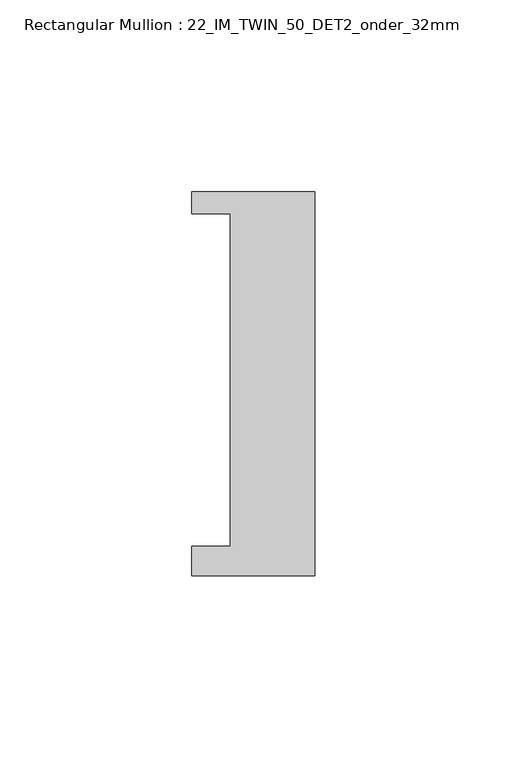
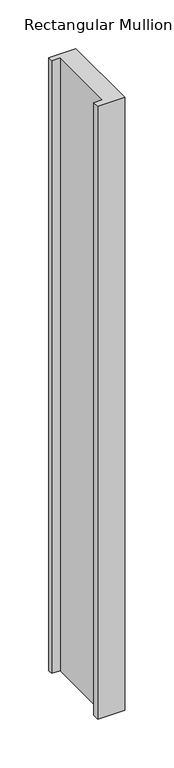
"""IFC4 building model written with IfcOpenShell, lengths in millimetres: member geometry, Rectangular Mullion : 22_IM_TWIN_50_DET2_onder_32mm."""

import ifcopenshell
import ifcopenshell.guid

model = None  # the IFC model being written
_history = None  # IfcOwnerHistory: only IFC2X3 demands one
_inside = {}  # id of a spatial element -> (the spatial element, [elements in it])
_under = {}  # id of a project, library or spatial element -> (it, [spatial elements below it])
_declared = {}  # id of a project -> (the project, [libraries it declares])
_typed = {}  # id of a type object -> (the type object, [elements of that type])
_made_of = {}  # id of a material, layer set ... -> (it, [elements and type objects made of it])


def new_model(schema):
    """Start an empty IFC model of exactly this schema.

    Asked for "IFC4X3", IfcOpenShell would pick the latest addendum, in which some entities
    have other attributes; the version numbers below select the first issue.
    IFC2X3 requires an IfcOwnerHistory on every rooted entity: one is made here for all.
    """
    global model, _history
    if schema == "IFC4X3":
        model = ifcopenshell.file(schema_version=(4, 3, 0, 0))
    else:
        model = ifcopenshell.file(schema=schema)
    _inside.clear()
    _under.clear()
    _declared.clear()
    _typed.clear()
    _made_of.clear()
    _history = None
    if model.schema == "IFC2X3":
        org = make("IfcOrganization", Name="unknown")
        user = make(
            "IfcPersonAndOrganization",
            ThePerson=make("IfcPerson", FamilyName="unknown"),
            TheOrganization=org,
        )
        app = make(
            "IfcApplication",
            ApplicationDeveloper=org,
            Version="unknown",
            ApplicationFullName="unknown",
            ApplicationIdentifier="unknown",
        )
        _history = make(
            "IfcOwnerHistory",
            OwningUser=user,
            OwningApplication=app,
            ChangeAction="ADDED",
            CreationDate=0,
        )
    return model


def make(cls, **values):
    """One entity of the class cls with the attributes given. An attribute that is None is left unset."""
    return model.create_entity(
        cls, **{name: value for name, value in values.items() if value is not None}
    )


def rooted(cls, **values):
    """An entity with a GlobalId (a new one), such as an element, a storey or a relation."""
    return make(cls, GlobalId=ifcopenshell.guid.new(), OwnerHistory=_history, **values)


def si_unit(unit_type, name, prefix=None):
    """IfcSIUnit, for example si_unit("LENGTHUNIT", "METRE", prefix="MILLI")."""
    return make("IfcSIUnit", UnitType=unit_type, Prefix=prefix, Name=name)


def assignment(units):
    """IfcUnitAssignment: the units of a project."""
    return None if units is None else make("IfcUnitAssignment", Units=units)


def point(xyz):
    """IfcCartesianPoint."""
    return None if xyz is None else make("IfcCartesianPoint", Coordinates=xyz)


def direction(xyz):
    """IfcDirection."""
    return None if xyz is None else make("IfcDirection", DirectionRatios=xyz)


def frame(location, z_axis=None, x_axis=None):
    """IfcAxis2Placement3D, a coordinate frame: its origin and axes. An axis left out is left unset."""
    return make(
        "IfcAxis2Placement3D",
        Location=point(location),
        Axis=direction(z_axis),
        RefDirection=direction(x_axis),
    )


def origin():
    """The frame at (0, 0, 0) with its axes left unset."""
    return frame((0.0, 0.0, 0.0))


def place(relative_to, where):
    """IfcLocalPlacement: puts the frame where relative to a parent placement (None: the world)."""
    return make(
        "IfcLocalPlacement", PlacementRelTo=relative_to, RelativePlacement=where
    )


def context(
    kind, dimensions, precision=None, world=None, true_north=None, identifier=None
):
    """IfcGeometricRepresentationContext, for example the 3D "Model" context."""
    return make(
        "IfcGeometricRepresentationContext",
        ContextIdentifier=identifier,
        ContextType=kind,
        CoordinateSpaceDimension=dimensions,
        Precision=precision,
        WorldCoordinateSystem=world,
        TrueNorth=true_north,
    )


def project(units=None, contexts=None):
    """IfcProject with its units and contexts."""
    return rooted(
        "IfcProject",
        Name="project",
        RepresentationContexts=contexts,
        UnitsInContext=assignment(units),
    )


def spatial(cls, under=None, at=None, **own):
    """A site, building, storey or space (cls), placed at a placement, below another one or the project."""
    s = rooted(cls, ObjectPlacement=at, **own)
    if under is not None:
        _under.setdefault(under.id(), (under, []))[1].append(s)
    return s


def polyline(points):
    """IfcPolyline through the points."""
    return make("IfcPolyline", Points=[point(p) for p in points])


def outline(outer, holes=None, kind="AREA"):
    """IfcArbitraryClosedProfileDef: a profile drawn as a closed curve; with holes, ...WithVoids."""
    if holes is None:
        return make("IfcArbitraryClosedProfileDef", ProfileType=kind, OuterCurve=outer)
    return make(
        "IfcArbitraryProfileDefWithVoids",
        ProfileType=kind,
        OuterCurve=outer,
        InnerCurves=holes,
    )


def extrude(swept, where, along, depth):
    """IfcExtrudedAreaSolid: the profile swept, set in the frame where, extruded along a direction by depth."""
    return make(
        "IfcExtrudedAreaSolid",
        SweptArea=swept,
        Position=where,
        ExtrudedDirection=direction(along),
        Depth=depth,
    )


def shape(context_of_items, identifier, shape_type, items):
    """IfcShapeRepresentation: the items that make up one representation, for example the "Body"."""
    return make(
        "IfcShapeRepresentation",
        ContextOfItems=context_of_items,
        RepresentationIdentifier=identifier,
        RepresentationType=shape_type,
        Items=items,
    )


def source(mapping_origin, context_of_items, identifier, shape_type, items):
    """IfcRepresentationMap: a shape defined once, which mapped items show again and again."""
    return make(
        "IfcRepresentationMap",
        MappingOrigin=mapping_origin,
        MappedRepresentation=shape(context_of_items, identifier, shape_type, items),
    )


def transform(
    local_origin,
    x_axis=None,
    y_axis=None,
    z_axis=None,
    scale=None,
    scale2=None,
    scale3=None,
    uniform=True,
):
    """IfcCartesianTransformationOperator3D, or its non-uniform kind. x_axis, y_axis, z_axis: its Axis1, 2, 3."""
    if uniform:
        return make(
            "IfcCartesianTransformationOperator3D",
            Axis1=direction(x_axis),
            Axis2=direction(y_axis),
            LocalOrigin=point(local_origin),
            Scale=scale,
            Axis3=direction(z_axis),
        )
    return make(
        "IfcCartesianTransformationOperator3DnonUniform",
        Axis1=direction(x_axis),
        Axis2=direction(y_axis),
        LocalOrigin=point(local_origin),
        Scale=scale,
        Axis3=direction(z_axis),
        Scale2=scale2,
        Scale3=scale3,
    )


def mapped(mapping_source, mapping_target):
    """IfcMappedItem: shows the shape of a source again, moved by a transform."""
    return make(
        "IfcMappedItem", MappingSource=mapping_source, MappingTarget=mapping_target
    )


def made_of(thing, what):
    """Note that an element or type object is made of a material, layer set ...; save() writes the relation."""
    if what is not None:
        _made_of.setdefault(what.id(), (what, []))[1].append(thing)
    return thing


def element(
    cls,
    number,
    at=None,
    inside=None,
    cuts=None,
    type_object=None,
    material=None,
    context=None,
    identifier="Body",
    shape_type=None,
    held_by="IfcProductDefinitionShape",
    body=None,
    shapes=None,
    **own,
):
    """One element of the class cls, such as IfcWall. Its Tag is "e" and its number.

    at: its placement. inside: the storey or other place that contains it. cuts: it is an
    opening in that element (IfcRelVoidsElement). A single representation is given by context,
    identifier, shape_type and body (its items); several are given by shapes. held_by: the class
    of the entity that holds the representations. save() writes the other relations.
    """
    e = rooted(cls, Tag="e%d" % number, ObjectPlacement=at, **own)
    if body is not None:
        shapes = [shape(context, identifier, shape_type, body)]
    if shapes is not None:
        e.Representation = make(held_by, Representations=shapes)
    if inside is not None:
        _inside.setdefault(inside.id(), (inside, []))[1].append(e)
    if cuts is not None:
        rooted(
            "IfcRelVoidsElement", RelatingBuildingElement=cuts, RelatedOpeningElement=e
        )
    if type_object is not None:
        _typed.setdefault(type_object.id(), (type_object, []))[1].append(e)
    return made_of(e, material)


def aggregate(whole, parts):
    """IfcRelAggregates: a whole, such as a stair, and the parts it consists of."""
    return rooted("IfcRelAggregates", RelatingObject=whole, RelatedObjects=parts)


def save(model, path):
    """Write the relations noted so far, then the file.

    IfcRelAggregates (storeys below a building ...), IfcRelContainedInSpatialStructure (elements
    in a storey), IfcRelDefinesByType, IfcRelAssociatesMaterial and IfcRelDeclares: one each for
    every whole, place, type object, material and project.
    """
    for whole, parts in _under.values():
        aggregate(whole, parts)
    for where, things in _inside.values():
        rooted(
            "IfcRelContainedInSpatialStructure",
            RelatedElements=things,
            RelatingStructure=where,
        )
    for kind, things in _typed.values():
        rooted("IfcRelDefinesByType", RelatedObjects=things, RelatingType=kind)
    for what, things in _made_of.values():
        rooted("IfcRelAssociatesMaterial", RelatedObjects=things, RelatingMaterial=what)
    for by, libraries in _declared.values():
        rooted("IfcRelDeclares", RelatingContext=by, RelatedDefinitions=libraries)
    model.write(path)


def rectangular_mullion_22_im_twin_50_det2_onder_32mm_36c16b13(model_context):
    return source(origin(), model_context, "Body", "SweptSolid", [
        extrude(outline(polyline([(-32.0, 50.0), (0.0, 50.0), (0.0, -50.0), (-32.0, -50.0), (-32.0, -42.3), (-22.0, -42.3), (-22.0, 44.3), (-32.0, 44.3), (-32.0, 50.0)])), frame((0.0, 0.0, -766.0), z_axis=(0.0, 0.0, 1.0), x_axis=(1.0, 0.0, 0.0)), (0.0, 0.0, 1.0), 766.0),
    ])


if __name__ == "__main__":
    model = new_model("IFC4")
    model_context = context("Model", 3, world=origin())
    ifc_project = project(units=[si_unit("LENGTHUNIT", "METRE", prefix="MILLI")], contexts=[model_context])
    site = spatial("IfcSite", under=ifc_project)
    building = spatial("IfcBuilding", under=site)
    placement = place(None, origin())
    rectangular_mullion_22_im_twin_50_det2_onder_32mm_shape = rectangular_mullion_22_im_twin_50_det2_onder_32mm_36c16b13(model_context)
    element("IfcMember", 1, ObjectType="Rectangular Mullion : 22_IM_TWIN_50_DET2_onder_32mm", at=placement, inside=building, context=model_context, shape_type="MappedRepresentation", body=[
        mapped(rectangular_mullion_22_im_twin_50_det2_onder_32mm_shape, transform((0.0, 0.0, 0.0), x_axis=(1.0, 0.0, 0.0), y_axis=(0.0, 1.0, 0.0), z_axis=(0.0, 0.0, 1.0))),
    ])
    save(model, "model.ifc")
